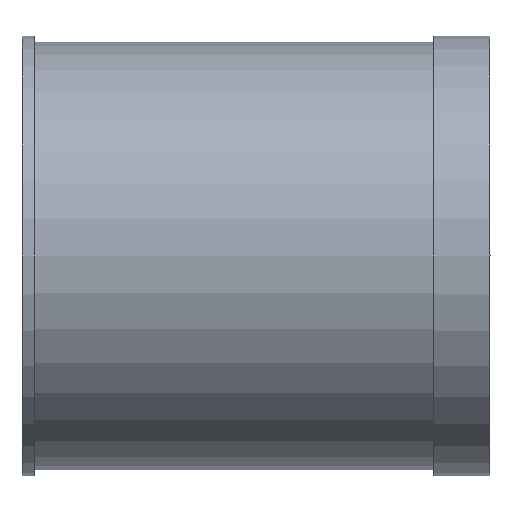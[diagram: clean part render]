
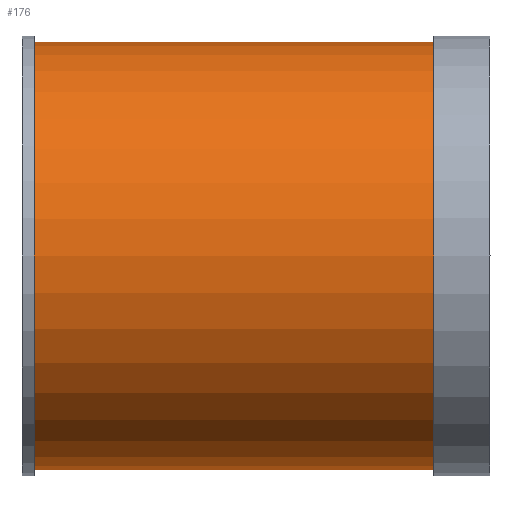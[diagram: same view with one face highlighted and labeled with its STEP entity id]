
A CAD part, left-side view. The second image highlights one B-rep face of the part: STEP entity #176.
In plain terms, the highlighted cylindrical face has radius 68.5 mm (diameter 137 mm), a partial arc.
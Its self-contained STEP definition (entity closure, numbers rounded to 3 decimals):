
#176=ADVANCED_FACE('',(#298),#1056,.T.);
#298=FACE_OUTER_BOUND('',#432,.F.);
#432=EDGE_LOOP('',(#630,#631,#632,#633));
#630=ORIENTED_EDGE('',*,*,#1352,.T.);
#631=ORIENTED_EDGE('',*,*,#1354,.F.);
#632=ORIENTED_EDGE('',*,*,#1353,.T.);
#633=ORIENTED_EDGE('',*,*,#1355,.T.);
#1056=CYLINDRICAL_SURFACE('',#1958,68.5);
#1132=LINE('',#2936,#1224);
#1133=LINE('',#2937,#1225);
#1224=VECTOR('',#2227,128.);
#1225=VECTOR('',#2228,128.);
#1352=EDGE_CURVE('',#1753,#1752,#1586,.T.);
#1353=EDGE_CURVE('',#1751,#1750,#1587,.T.);
#1354=EDGE_CURVE('',#1751,#1752,#1132,.T.);
#1355=EDGE_CURVE('',#1750,#1753,#1133,.T.);
#1586=CIRCLE('',#1892,68.5);
#1587=CIRCLE('',#1893,68.5);
#1750=VERTEX_POINT('',#2848);
#1751=VERTEX_POINT('',#2849);
#1752=VERTEX_POINT('',#2850);
#1753=VERTEX_POINT('',#2851);
#1892=AXIS2_PLACEMENT_3D('',#2934,#2223,#2224);
#1893=AXIS2_PLACEMENT_3D('',#2935,#2225,#2226);
#1958=AXIS2_PLACEMENT_3D('',#3034,#2389,#2390);
#2223=DIRECTION('',(0.,-1.,0.));
#2224=DIRECTION('',(0.,0.,1.));
#2225=DIRECTION('',(0.,1.,0.));
#2226=DIRECTION('',(0.,0.,-1.));
#2227=DIRECTION('',(0.,-1.,0.));
#2228=DIRECTION('',(0.,-1.,0.));
#2389=DIRECTION('',(0.,1.,0.));
#2390=DIRECTION('',(0.,0.,-1.));
#2848=CARTESIAN_POINT('',(-50.,-89.2,-102.5));
#2849=CARTESIAN_POINT('',(-50.,-89.2,-239.5));
#2850=CARTESIAN_POINT('',(-50.,-217.2,-239.5));
#2851=CARTESIAN_POINT('',(-50.,-217.2,-102.5));
#2934=CARTESIAN_POINT('',(-50.,-217.2,-171.));
#2935=CARTESIAN_POINT('',(-50.,-89.2,-171.));
#2936=CARTESIAN_POINT('',(-50.,-89.2,-239.5));
#2937=CARTESIAN_POINT('',(-50.,-89.2,-102.5));
#3034=CARTESIAN_POINT('',(-50.,-89.2,-171.));
